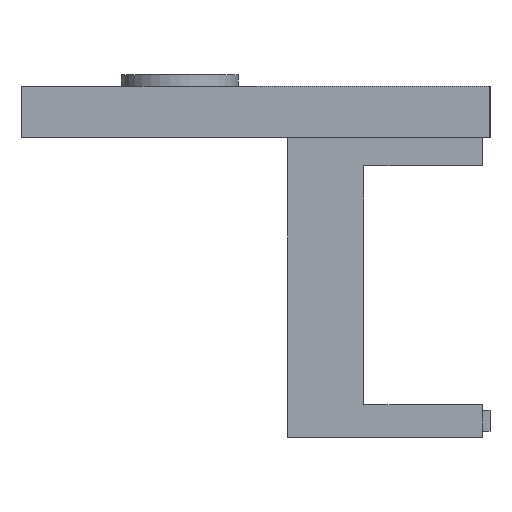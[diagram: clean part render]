
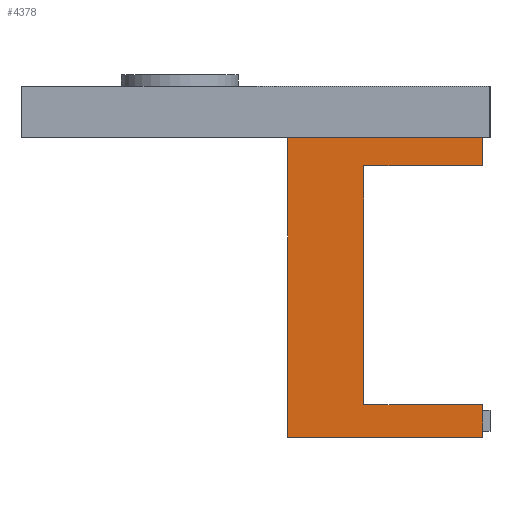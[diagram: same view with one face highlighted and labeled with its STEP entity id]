
A CAD part, left-side view. The second image highlights one B-rep face of the part: STEP entity #4378.
In plain terms, the highlighted planar face has unit normal (-1, 0, 0).
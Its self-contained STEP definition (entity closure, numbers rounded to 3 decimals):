
#72 = PLANE('',#73);
#73 = AXIS2_PLACEMENT_3D('',#74,#75,#76);
#74 = CARTESIAN_POINT('',(-47.5,-21.5,25.6));
#75 = DIRECTION('',(0.,0.,1.));
#76 = DIRECTION('',(1.,0.,-0.));
#1354 = PLANE('',#1355);
#1355 = AXIS2_PLACEMENT_3D('',#1356,#1357,#1358);
#1356 = CARTESIAN_POINT('',(-59.986,-4.218,-53.224));
#1357 = DIRECTION('',(-0.,1.,0.));
#1358 = DIRECTION('',(0.,0.,1.));
#2370 = VERTEX_POINT('',#2371);
#2371 = CARTESIAN_POINT('',(-31.05,-20.869,25.6));
#2385 = PLANE('',#2386);
#2386 = AXIS2_PLACEMENT_3D('',#2387,#2388,#2389);
#2387 = CARTESIAN_POINT('',(-31.05,-20.869,23.2));
#2388 = DIRECTION('',(-0.,1.,0.));
#2389 = DIRECTION('',(0.,0.,1.));
#2397 = EDGE_CURVE('',#2398,#2370,#2400,.T.);
#2398 = VERTEX_POINT('',#2399);
#2399 = CARTESIAN_POINT('',(-31.05,-4.218,25.6));
#2400 = SURFACE_CURVE('',#2401,(#2405,#2412),.PCURVE_S1.);
#2401 = LINE('',#2402,#2403);
#2402 = CARTESIAN_POINT('',(-31.05,-60.75,25.6));
#2403 = VECTOR('',#2404,1.);
#2404 = DIRECTION('',(0.,-1.,0.));
#2405 = PCURVE('',#72,#2406);
#2406 = DEFINITIONAL_REPRESENTATION('',(#2407),#2411);
#2407 = LINE('',#2408,#2409);
#2408 = CARTESIAN_POINT('',(16.45,-39.25));
#2409 = VECTOR('',#2410,1.);
#2410 = DIRECTION('',(0.,-1.));
#2411 = ( GEOMETRIC_REPRESENTATION_CONTEXT(2) 
PARAMETRIC_REPRESENTATION_CONTEXT() REPRESENTATION_CONTEXT('2D SPACE',''
  ) );
#2412 = PCURVE('',#2413,#2418);
#2413 = PLANE('',#2414);
#2414 = AXIS2_PLACEMENT_3D('',#2415,#2416,#2417);
#2415 = CARTESIAN_POINT('',(-31.05,-21.5,25.6));
#2416 = DIRECTION('',(1.,0.,-0.));
#2417 = DIRECTION('',(0.,0.,1.));
#2418 = DEFINITIONAL_REPRESENTATION('',(#2419),#2422);
#2419 = B_SPLINE_CURVE_WITH_KNOTS('',1,(#2420,#2421),.UNSPECIFIED.,.F.,
  .F.,(2,2),(-88.25,-39.25),.PIECEWISE_BEZIER_KNOTS.);
#2420 = CARTESIAN_POINT('',(0.,-49.));
#2421 = CARTESIAN_POINT('',(0.,0.));
#2422 = ( GEOMETRIC_REPRESENTATION_CONTEXT(2) 
PARAMETRIC_REPRESENTATION_CONTEXT() REPRESENTATION_CONTEXT('2D SPACE',''
  ) );
#4162 = VERTEX_POINT('',#4163);
#4163 = CARTESIAN_POINT('',(-31.05,-4.218,0.));
#4177 = PLANE('',#4178);
#4178 = AXIS2_PLACEMENT_3D('',#4179,#4180,#4181);
#4179 = CARTESIAN_POINT('',(-31.05,-20.869,0.));
#4180 = DIRECTION('',(0.,0.,1.));
#4181 = DIRECTION('',(1.,0.,-0.));
#4189 = EDGE_CURVE('',#4162,#2398,#4190,.T.);
#4190 = SURFACE_CURVE('',#4191,(#4195,#4202),.PCURVE_S1.);
#4191 = LINE('',#4192,#4193);
#4192 = CARTESIAN_POINT('',(-31.05,-4.218,0.));
#4193 = VECTOR('',#4194,1.);
#4194 = DIRECTION('',(0.,0.,1.));
#4195 = PCURVE('',#1354,#4196);
#4196 = DEFINITIONAL_REPRESENTATION('',(#4197),#4201);
#4197 = LINE('',#4198,#4199);
#4198 = CARTESIAN_POINT('',(53.224,28.936));
#4199 = VECTOR('',#4200,1.);
#4200 = DIRECTION('',(1.,0.));
#4201 = ( GEOMETRIC_REPRESENTATION_CONTEXT(2) 
PARAMETRIC_REPRESENTATION_CONTEXT() REPRESENTATION_CONTEXT('2D SPACE',''
  ) );
#4202 = PCURVE('',#2413,#4203);
#4203 = DEFINITIONAL_REPRESENTATION('',(#4204),#4208);
#4204 = LINE('',#4205,#4206);
#4205 = CARTESIAN_POINT('',(-25.6,-17.283));
#4206 = VECTOR('',#4207,1.);
#4207 = DIRECTION('',(1.,0.));
#4208 = ( GEOMETRIC_REPRESENTATION_CONTEXT(2) 
PARAMETRIC_REPRESENTATION_CONTEXT() REPRESENTATION_CONTEXT('2D SPACE',''
  ) );
#4378 = ADVANCED_FACE('',(#4379),#2413,.F.);
#4379 = FACE_BOUND('',#4380,.F.);
#4380 = EDGE_LOOP('',(#4381,#4382,#4405,#4433,#4461,#4489,#4517,#4538));
#4381 = ORIENTED_EDGE('',*,*,#2397,.T.);
#4382 = ORIENTED_EDGE('',*,*,#4383,.F.);
#4383 = EDGE_CURVE('',#4384,#2370,#4386,.T.);
#4384 = VERTEX_POINT('',#4385);
#4385 = CARTESIAN_POINT('',(-31.05,-20.869,23.2));
#4386 = SURFACE_CURVE('',#4387,(#4391,#4398),.PCURVE_S1.);
#4387 = LINE('',#4388,#4389);
#4388 = CARTESIAN_POINT('',(-31.05,-20.869,23.2));
#4389 = VECTOR('',#4390,1.);
#4390 = DIRECTION('',(0.,0.,1.));
#4391 = PCURVE('',#2413,#4392);
#4392 = DEFINITIONAL_REPRESENTATION('',(#4393),#4397);
#4393 = LINE('',#4394,#4395);
#4394 = CARTESIAN_POINT('',(-2.4,-0.631));
#4395 = VECTOR('',#4396,1.);
#4396 = DIRECTION('',(1.,0.));
#4397 = ( GEOMETRIC_REPRESENTATION_CONTEXT(2) 
PARAMETRIC_REPRESENTATION_CONTEXT() REPRESENTATION_CONTEXT('2D SPACE',''
  ) );
#4398 = PCURVE('',#2385,#4399);
#4399 = DEFINITIONAL_REPRESENTATION('',(#4400),#4404);
#4400 = LINE('',#4401,#4402);
#4401 = CARTESIAN_POINT('',(0.,0.));
#4402 = VECTOR('',#4403,1.);
#4403 = DIRECTION('',(1.,0.));
#4404 = ( GEOMETRIC_REPRESENTATION_CONTEXT(2) 
PARAMETRIC_REPRESENTATION_CONTEXT() REPRESENTATION_CONTEXT('2D SPACE',''
  ) );
#4405 = ORIENTED_EDGE('',*,*,#4406,.T.);
#4406 = EDGE_CURVE('',#4384,#4407,#4409,.T.);
#4407 = VERTEX_POINT('',#4408);
#4408 = CARTESIAN_POINT('',(-31.05,-10.717,23.2));
#4409 = SURFACE_CURVE('',#4410,(#4414,#4421),.PCURVE_S1.);
#4410 = LINE('',#4411,#4412);
#4411 = CARTESIAN_POINT('',(-31.05,-20.869,23.2));
#4412 = VECTOR('',#4413,1.);
#4413 = DIRECTION('',(-0.,1.,0.));
#4414 = PCURVE('',#2413,#4415);
#4415 = DEFINITIONAL_REPRESENTATION('',(#4416),#4420);
#4416 = LINE('',#4417,#4418);
#4417 = CARTESIAN_POINT('',(-2.4,-0.631));
#4418 = VECTOR('',#4419,1.);
#4419 = DIRECTION('',(0.,-1.));
#4420 = ( GEOMETRIC_REPRESENTATION_CONTEXT(2) 
PARAMETRIC_REPRESENTATION_CONTEXT() REPRESENTATION_CONTEXT('2D SPACE',''
  ) );
#4421 = PCURVE('',#4422,#4427);
#4422 = PLANE('',#4423);
#4423 = AXIS2_PLACEMENT_3D('',#4424,#4425,#4426);
#4424 = CARTESIAN_POINT('',(-31.05,-20.869,23.2));
#4425 = DIRECTION('',(0.,0.,1.));
#4426 = DIRECTION('',(1.,0.,-0.));
#4427 = DEFINITIONAL_REPRESENTATION('',(#4428),#4432);
#4428 = LINE('',#4429,#4430);
#4429 = CARTESIAN_POINT('',(0.,0.));
#4430 = VECTOR('',#4431,1.);
#4431 = DIRECTION('',(0.,1.));
#4432 = ( GEOMETRIC_REPRESENTATION_CONTEXT(2) 
PARAMETRIC_REPRESENTATION_CONTEXT() REPRESENTATION_CONTEXT('2D SPACE',''
  ) );
#4433 = ORIENTED_EDGE('',*,*,#4434,.F.);
#4434 = EDGE_CURVE('',#4435,#4407,#4437,.T.);
#4435 = VERTEX_POINT('',#4436);
#4436 = CARTESIAN_POINT('',(-31.05,-10.717,2.8));
#4437 = SURFACE_CURVE('',#4438,(#4442,#4449),.PCURVE_S1.);
#4438 = LINE('',#4439,#4440);
#4439 = CARTESIAN_POINT('',(-31.05,-10.717,2.7));
#4440 = VECTOR('',#4441,1.);
#4441 = DIRECTION('',(0.,0.,1.));
#4442 = PCURVE('',#2413,#4443);
#4443 = DEFINITIONAL_REPRESENTATION('',(#4444),#4448);
#4444 = LINE('',#4445,#4446);
#4445 = CARTESIAN_POINT('',(-22.9,-10.783));
#4446 = VECTOR('',#4447,1.);
#4447 = DIRECTION('',(1.,0.));
#4448 = ( GEOMETRIC_REPRESENTATION_CONTEXT(2) 
PARAMETRIC_REPRESENTATION_CONTEXT() REPRESENTATION_CONTEXT('2D SPACE',''
  ) );
#4449 = PCURVE('',#4450,#4455);
#4450 = PLANE('',#4451);
#4451 = AXIS2_PLACEMENT_3D('',#4452,#4453,#4454);
#4452 = CARTESIAN_POINT('',(-31.05,-10.717,2.7));
#4453 = DIRECTION('',(-0.,1.,0.));
#4454 = DIRECTION('',(0.,0.,1.));
#4455 = DEFINITIONAL_REPRESENTATION('',(#4456),#4460);
#4456 = LINE('',#4457,#4458);
#4457 = CARTESIAN_POINT('',(0.,0.));
#4458 = VECTOR('',#4459,1.);
#4459 = DIRECTION('',(1.,0.));
#4460 = ( GEOMETRIC_REPRESENTATION_CONTEXT(2) 
PARAMETRIC_REPRESENTATION_CONTEXT() REPRESENTATION_CONTEXT('2D SPACE',''
  ) );
#4461 = ORIENTED_EDGE('',*,*,#4462,.F.);
#4462 = EDGE_CURVE('',#4463,#4435,#4465,.T.);
#4463 = VERTEX_POINT('',#4464);
#4464 = CARTESIAN_POINT('',(-31.05,-20.869,2.8));
#4465 = SURFACE_CURVE('',#4466,(#4470,#4477),.PCURVE_S1.);
#4466 = LINE('',#4467,#4468);
#4467 = CARTESIAN_POINT('',(-31.05,-20.869,2.8));
#4468 = VECTOR('',#4469,1.);
#4469 = DIRECTION('',(-0.,1.,0.));
#4470 = PCURVE('',#2413,#4471);
#4471 = DEFINITIONAL_REPRESENTATION('',(#4472),#4476);
#4472 = LINE('',#4473,#4474);
#4473 = CARTESIAN_POINT('',(-22.8,-0.631));
#4474 = VECTOR('',#4475,1.);
#4475 = DIRECTION('',(0.,-1.));
#4476 = ( GEOMETRIC_REPRESENTATION_CONTEXT(2) 
PARAMETRIC_REPRESENTATION_CONTEXT() REPRESENTATION_CONTEXT('2D SPACE',''
  ) );
#4477 = PCURVE('',#4478,#4483);
#4478 = PLANE('',#4479);
#4479 = AXIS2_PLACEMENT_3D('',#4480,#4481,#4482);
#4480 = CARTESIAN_POINT('',(-31.05,-20.869,2.8));
#4481 = DIRECTION('',(0.,0.,1.));
#4482 = DIRECTION('',(1.,0.,-0.));
#4483 = DEFINITIONAL_REPRESENTATION('',(#4484),#4488);
#4484 = LINE('',#4485,#4486);
#4485 = CARTESIAN_POINT('',(0.,0.));
#4486 = VECTOR('',#4487,1.);
#4487 = DIRECTION('',(0.,1.));
#4488 = ( GEOMETRIC_REPRESENTATION_CONTEXT(2) 
PARAMETRIC_REPRESENTATION_CONTEXT() REPRESENTATION_CONTEXT('2D SPACE',''
  ) );
#4489 = ORIENTED_EDGE('',*,*,#4490,.F.);
#4490 = EDGE_CURVE('',#4491,#4463,#4493,.T.);
#4491 = VERTEX_POINT('',#4492);
#4492 = CARTESIAN_POINT('',(-31.05,-20.869,0.));
#4493 = SURFACE_CURVE('',#4494,(#4498,#4505),.PCURVE_S1.);
#4494 = LINE('',#4495,#4496);
#4495 = CARTESIAN_POINT('',(-31.05,-20.869,0.));
#4496 = VECTOR('',#4497,1.);
#4497 = DIRECTION('',(0.,0.,1.));
#4498 = PCURVE('',#2413,#4499);
#4499 = DEFINITIONAL_REPRESENTATION('',(#4500),#4504);
#4500 = LINE('',#4501,#4502);
#4501 = CARTESIAN_POINT('',(-25.6,-0.631));
#4502 = VECTOR('',#4503,1.);
#4503 = DIRECTION('',(1.,0.));
#4504 = ( GEOMETRIC_REPRESENTATION_CONTEXT(2) 
PARAMETRIC_REPRESENTATION_CONTEXT() REPRESENTATION_CONTEXT('2D SPACE',''
  ) );
#4505 = PCURVE('',#4506,#4511);
#4506 = PLANE('',#4507);
#4507 = AXIS2_PLACEMENT_3D('',#4508,#4509,#4510);
#4508 = CARTESIAN_POINT('',(-31.05,-20.869,0.));
#4509 = DIRECTION('',(-0.,1.,0.));
#4510 = DIRECTION('',(0.,0.,1.));
#4511 = DEFINITIONAL_REPRESENTATION('',(#4512),#4516);
#4512 = LINE('',#4513,#4514);
#4513 = CARTESIAN_POINT('',(0.,0.));
#4514 = VECTOR('',#4515,1.);
#4515 = DIRECTION('',(1.,0.));
#4516 = ( GEOMETRIC_REPRESENTATION_CONTEXT(2) 
PARAMETRIC_REPRESENTATION_CONTEXT() REPRESENTATION_CONTEXT('2D SPACE',''
  ) );
#4517 = ORIENTED_EDGE('',*,*,#4518,.T.);
#4518 = EDGE_CURVE('',#4491,#4162,#4519,.T.);
#4519 = SURFACE_CURVE('',#4520,(#4524,#4531),.PCURVE_S1.);
#4520 = LINE('',#4521,#4522);
#4521 = CARTESIAN_POINT('',(-31.05,-20.869,0.));
#4522 = VECTOR('',#4523,1.);
#4523 = DIRECTION('',(-0.,1.,0.));
#4524 = PCURVE('',#2413,#4525);
#4525 = DEFINITIONAL_REPRESENTATION('',(#4526),#4530);
#4526 = LINE('',#4527,#4528);
#4527 = CARTESIAN_POINT('',(-25.6,-0.631));
#4528 = VECTOR('',#4529,1.);
#4529 = DIRECTION('',(0.,-1.));
#4530 = ( GEOMETRIC_REPRESENTATION_CONTEXT(2) 
PARAMETRIC_REPRESENTATION_CONTEXT() REPRESENTATION_CONTEXT('2D SPACE',''
  ) );
#4531 = PCURVE('',#4177,#4532);
#4532 = DEFINITIONAL_REPRESENTATION('',(#4533),#4537);
#4533 = LINE('',#4534,#4535);
#4534 = CARTESIAN_POINT('',(0.,0.));
#4535 = VECTOR('',#4536,1.);
#4536 = DIRECTION('',(0.,1.));
#4537 = ( GEOMETRIC_REPRESENTATION_CONTEXT(2) 
PARAMETRIC_REPRESENTATION_CONTEXT() REPRESENTATION_CONTEXT('2D SPACE',''
  ) );
#4538 = ORIENTED_EDGE('',*,*,#4189,.T.);
